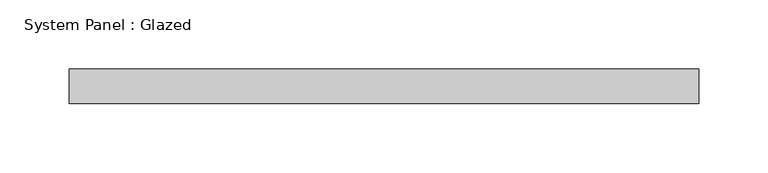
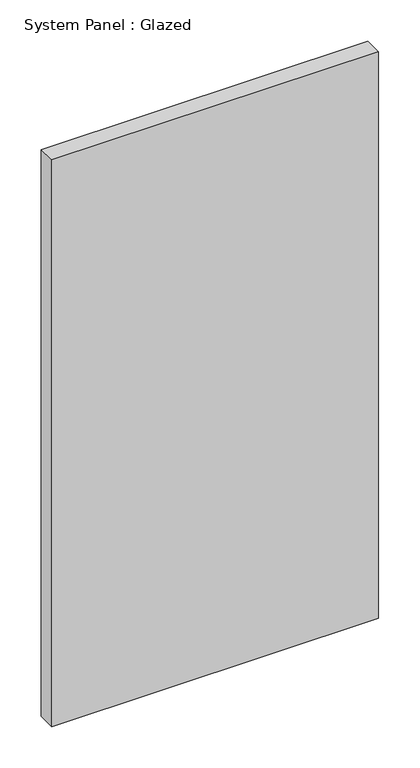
"""IFC4 building model written with IfcOpenShell, lengths in millimetres: plate geometry, System Panel : Glazed."""

from ifc_helpers import new_model, si_unit, origin, origin_with_axes, place, context, project, spatial, polyline, outline, extrude, source, transform, mapped, element, save


def system_panel_glazed_f6651b73(model_context):
    return source(origin(), model_context, "Body", "SweptSolid", [
        extrude(outline(polyline([(227.6287053, 24.5), (-227.6287053, 24.5), (-227.6287053, 49.5), (227.6287053, 49.5), (227.6287053, 24.5)])), origin_with_axes(), (0.0, 0.0, 1.0), 834.5604964),
    ])


if __name__ == "__main__":
    model = new_model("IFC4")
    model_context = context("Model", 3, world=origin())
    ifc_project = project(units=[si_unit("LENGTHUNIT", "METRE", prefix="MILLI")], contexts=[model_context])
    site = spatial("IfcSite", under=ifc_project)
    building = spatial("IfcBuilding", under=site)
    placement = place(None, origin())
    system_panel_glazed_shape = system_panel_glazed_f6651b73(model_context)
    element("IfcPlate", 1, ObjectType="System Panel : Glazed", at=placement, inside=building, context=model_context, shape_type="MappedRepresentation", body=[
        mapped(system_panel_glazed_shape, transform((0.0, 0.0, 0.0), x_axis=(1.0, 0.0, 0.0), y_axis=(0.0, 1.0, 0.0), z_axis=(0.0, 0.0, 1.0))),
    ])
    save(model, "model.ifc")
